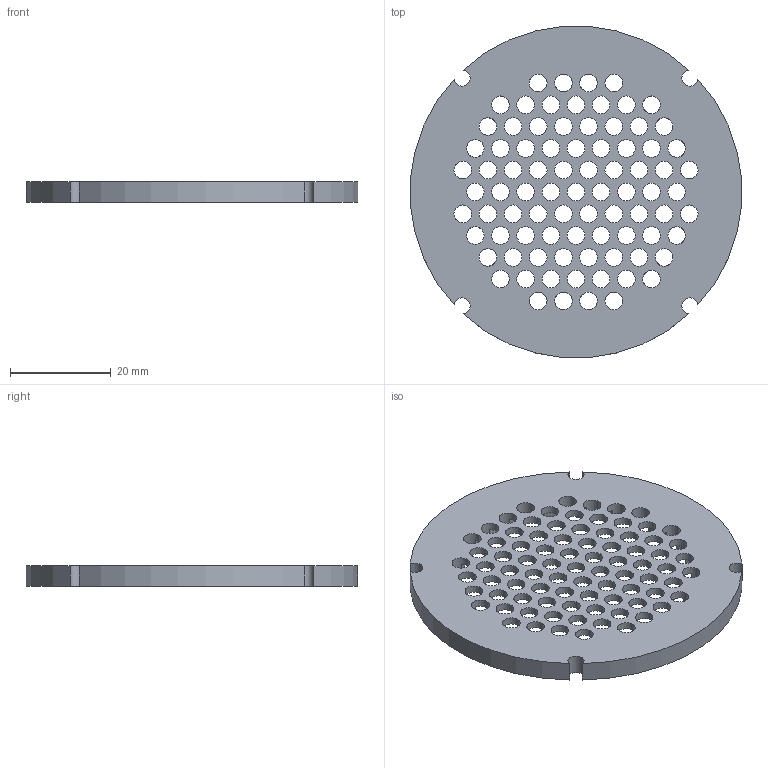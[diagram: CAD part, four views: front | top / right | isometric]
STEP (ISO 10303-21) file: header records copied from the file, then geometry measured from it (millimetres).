
FILE_DESCRIPTION(('Open CASCADE Model'),'2;1');
FILE_NAME('Open CASCADE Shape Model','2026-10-02T15:58:27',('Author'),( 'Open CASCADE'),'Open CASCADE STEP processor 8.0','build123d', 'Unknown');
FILE_SCHEMA(('AUTOMOTIVE_DESIGN { 1 0 10303 214 1 1 1 1 }'));
Length unit declared in the file: millimetre
Products named in the file (1): COMPOUND
Bounding box: 65.77 x 65.77 x 4 mm (x, y, z)
Volume: 8016.4 mm3; surface area: 7885.6 mm2
Topology: 1 solids, 1 shells, 122 faces, 426 edges, 284 vertices
Faces by surface type: cylinder 118, plane 4
Full cylindrical faces by diameter (mm): 3.5 x85, 57 x1
Entity records: 10571 total; most frequent: CARTESIAN_POINT 1839, DIRECTION 1689, ORIENTED_EDGE 852, PCURVE 852, DEFINITIONAL_REPRESENTATION 852, LINE 598, VECTOR 598, CIRCLE 561
